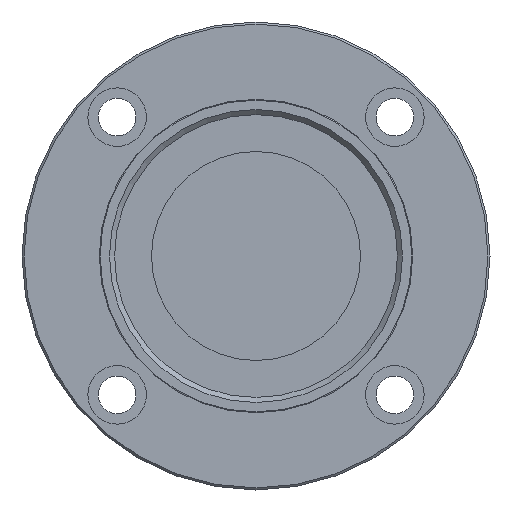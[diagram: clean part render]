
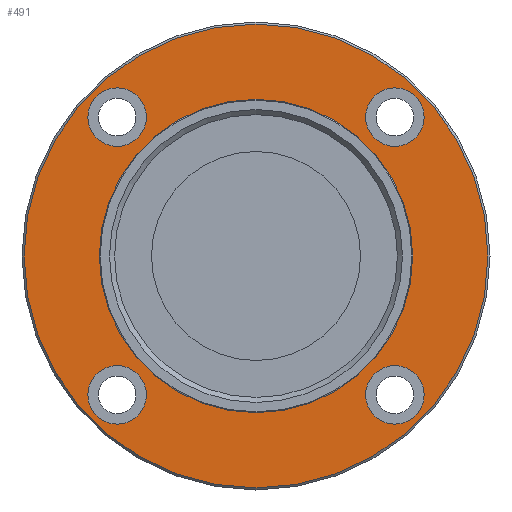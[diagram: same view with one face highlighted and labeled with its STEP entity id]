
A CAD part, front view. The second image highlights one B-rep face of the part: STEP entity #491.
In plain terms, the highlighted planar face has unit normal (0, -1, 0).
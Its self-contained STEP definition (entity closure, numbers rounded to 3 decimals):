
#101=CARTESIAN_POINT('',(-26.234,-96.,-33.234));
#102=VERTEX_POINT('',#101);
#103=CARTESIAN_POINT('',(-33.234,-96.,-33.234));
#104=DIRECTION('',(0.0,1.0,0.0));
#105=DIRECTION('',(1.0,0.0,0.0));
#106=AXIS2_PLACEMENT_3D('',#103,#104,#105);
#107=CIRCLE('',#106,7.);
#108=EDGE_CURVE('',#102,#102,#107,.T.);
#169=CARTESIAN_POINT('',(40.234,-96.,-33.234));
#170=VERTEX_POINT('',#169);
#171=CARTESIAN_POINT('',(33.234,-96.,-33.234));
#172=DIRECTION('',(0.0,1.0,0.0));
#173=DIRECTION('',(1.0,0.0,0.0));
#174=AXIS2_PLACEMENT_3D('',#171,#172,#173);
#175=CIRCLE('',#174,7.);
#176=EDGE_CURVE('',#170,#170,#175,.T.);
#237=CARTESIAN_POINT('',(40.234,-96.,33.234));
#238=VERTEX_POINT('',#237);
#239=CARTESIAN_POINT('',(33.234,-96.,33.234));
#240=DIRECTION('',(0.0,1.0,0.0));
#241=DIRECTION('',(1.0,0.0,0.0));
#242=AXIS2_PLACEMENT_3D('',#239,#240,#241);
#243=CIRCLE('',#242,7.);
#244=EDGE_CURVE('',#238,#238,#243,.T.);
#305=CARTESIAN_POINT('',(-26.234,-96.,33.234));
#306=VERTEX_POINT('',#305);
#307=CARTESIAN_POINT('',(-33.234,-96.,33.234));
#308=DIRECTION('',(0.0,1.0,0.0));
#309=DIRECTION('',(1.0,0.0,0.0));
#310=AXIS2_PLACEMENT_3D('',#307,#308,#309);
#311=CIRCLE('',#310,7.);
#312=EDGE_CURVE('',#306,#306,#311,.T.);
#345=CARTESIAN_POINT('',(37.5,-96.,0.0));
#346=VERTEX_POINT('',#345);
#347=CARTESIAN_POINT('',(0.0,-96.,0.0));
#348=DIRECTION('',(0.0,-1.0,0.0));
#349=DIRECTION('',(1.0,0.0,0.0));
#350=AXIS2_PLACEMENT_3D('',#347,#348,#349);
#351=CIRCLE('',#350,37.5);
#352=EDGE_CURVE('',#346,#346,#351,.T.);
#453=CARTESIAN_POINT('',(55.5,-96.,0.0));
#454=VERTEX_POINT('',#453);
#455=CARTESIAN_POINT('',(0.0,-96.,0.0));
#456=DIRECTION('',(0.0,-1.0,0.0));
#457=DIRECTION('',(1.0,0.0,0.0));
#458=AXIS2_PLACEMENT_3D('',#455,#456,#457);
#459=CIRCLE('',#458,55.5);
#460=EDGE_CURVE('',#454,#454,#459,.T.);
#468=CARTESIAN_POINT('',(46.5,-96.,0.0));
#469=DIRECTION('',(0.0,-1.0,0.0));
#470=DIRECTION('',(0.0,0.0,-1.0));
#471=AXIS2_PLACEMENT_3D('',#468,#469,#470);
#472=PLANE('',#471);
#473=ORIENTED_EDGE('',*,*,#460,.T.);
#474=EDGE_LOOP('',(#473));
#475=FACE_OUTER_BOUND('',#474,.T.);
#476=ORIENTED_EDGE('',*,*,#108,.T.);
#477=EDGE_LOOP('',(#476));
#478=FACE_BOUND('',#477,.T.);
#479=ORIENTED_EDGE('',*,*,#176,.T.);
#480=EDGE_LOOP('',(#479));
#481=FACE_BOUND('',#480,.T.);
#482=ORIENTED_EDGE('',*,*,#244,.T.);
#483=EDGE_LOOP('',(#482));
#484=FACE_BOUND('',#483,.T.);
#485=ORIENTED_EDGE('',*,*,#312,.T.);
#486=EDGE_LOOP('',(#485));
#487=FACE_BOUND('',#486,.T.);
#488=ORIENTED_EDGE('',*,*,#352,.F.);
#489=EDGE_LOOP('',(#488));
#490=FACE_BOUND('',#489,.T.);
#491=ADVANCED_FACE('',(#475,#478,#481,#484,#487,#490),#472,.T.);
